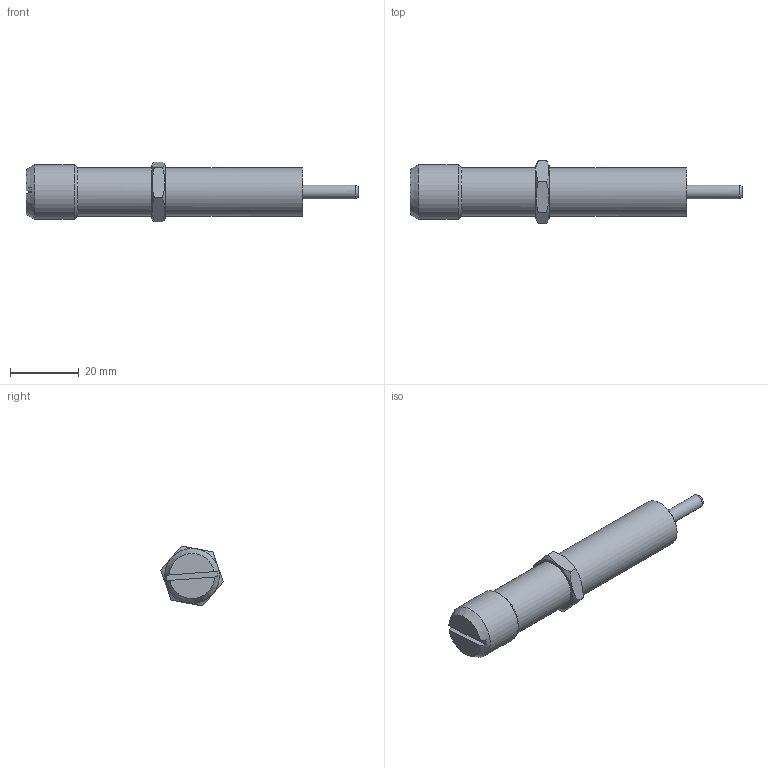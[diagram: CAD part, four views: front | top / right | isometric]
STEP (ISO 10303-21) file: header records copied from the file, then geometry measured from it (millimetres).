
FILE_DESCRIPTION((''),'2;1');
FILE_NAME('C:\Test\stp\4000113.stp','2008-03-18T12:08:40',('is'),(''),'Autodesk Inventor 10','Autodesk Inventor 10','');
FILE_SCHEMA(('AUTOMOTIVE_DESIGN { 1 0 10303 214 1 1 1 1 }'));
Length unit declared in the file: millimetre
Products named in the file (3): BSM 14 S (4000113); 6kt-Mutter M14x1 (4000110)
Assembly tree (2 placements, depth 2):
  BSM 14 S (4000113)
    BSM 14 S (4000113)
    6kt-Mutter M14x1 (4000110)
Bounding box: 96.5 x 18.17 x 17.42 mm (x, y, z)
Volume: 8584.7 mm3; surface area: 8271.5 mm2
Topology: 2 solids, 7 shells, 84 faces, 188 edges, 119 vertices
Faces by surface type: cone 27, plane 26, bspline 18, cylinder 13
Full cylindrical faces by diameter (mm): 1.4 x1, 4 x3, 4.3 x1, 7.4 x1, 7.8 x1, 8 x1, 10 x1, 14 x2, 14.2 x1, 16 x1
Entity records: 2674 total; most frequent: CARTESIAN_POINT 1111, DIRECTION 302, ORIENTED_EDGE 238, EDGE_LOOP 154, AXIS2_PLACEMENT_3D 146, EDGE_CURVE 119, VERTEX_POINT 101, FACE_OUTER_BOUND 84
